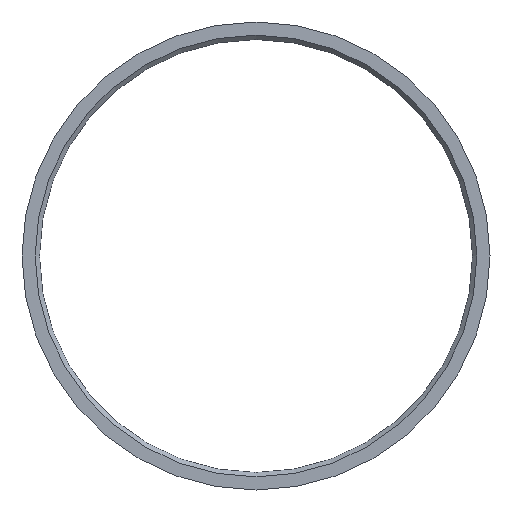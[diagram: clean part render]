
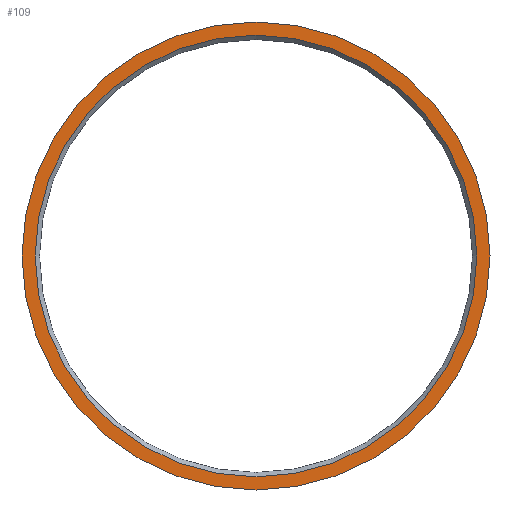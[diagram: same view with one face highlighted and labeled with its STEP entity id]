
A CAD part, front view. The second image highlights one B-rep face of the part: STEP entity #109.
In plain terms, the highlighted planar face has unit normal (0, -1, 0).
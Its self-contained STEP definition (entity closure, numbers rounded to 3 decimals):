
#16=FACE_BOUND('',#34,.T.);
#18=PLANE('',#144);
#25=FACE_OUTER_BOUND('',#33,.T.);
#33=EDGE_LOOP('',(#90));
#34=EDGE_LOOP('',(#91));
#51=CIRCLE('',#143,51.05);
#52=CIRCLE('',#145,54.1);
#59=VERTEX_POINT('',#202);
#60=VERTEX_POINT('',#206);
#70=EDGE_CURVE('',#59,#59,#51,.T.);
#71=EDGE_CURVE('',#60,#60,#52,.T.);
#90=ORIENTED_EDGE('',*,*,#71,.F.);
#91=ORIENTED_EDGE('',*,*,#70,.F.);
#109=ADVANCED_FACE('',(#25,#16),#18,.F.);
#143=AXIS2_PLACEMENT_3D('',#204,#171,#172);
#144=AXIS2_PLACEMENT_3D('',#205,#173,#174);
#145=AXIS2_PLACEMENT_3D('',#207,#175,#176);
#171=DIRECTION('center_axis',(0.,-1.,0.));
#172=DIRECTION('ref_axis',(1.,0.,0.));
#173=DIRECTION('center_axis',(0.,1.,0.));
#174=DIRECTION('ref_axis',(0.,0.,1.));
#175=DIRECTION('center_axis',(0.,1.,0.));
#176=DIRECTION('ref_axis',(-1.,0.,0.));
#202=CARTESIAN_POINT('',(-51.05,0.,0.));
#204=CARTESIAN_POINT('Origin',(0.,0.,0.));
#205=CARTESIAN_POINT('Origin',(0.,0.,0.));
#206=CARTESIAN_POINT('',(-54.1,0.,0.));
#207=CARTESIAN_POINT('Origin',(0.,0.,0.));
